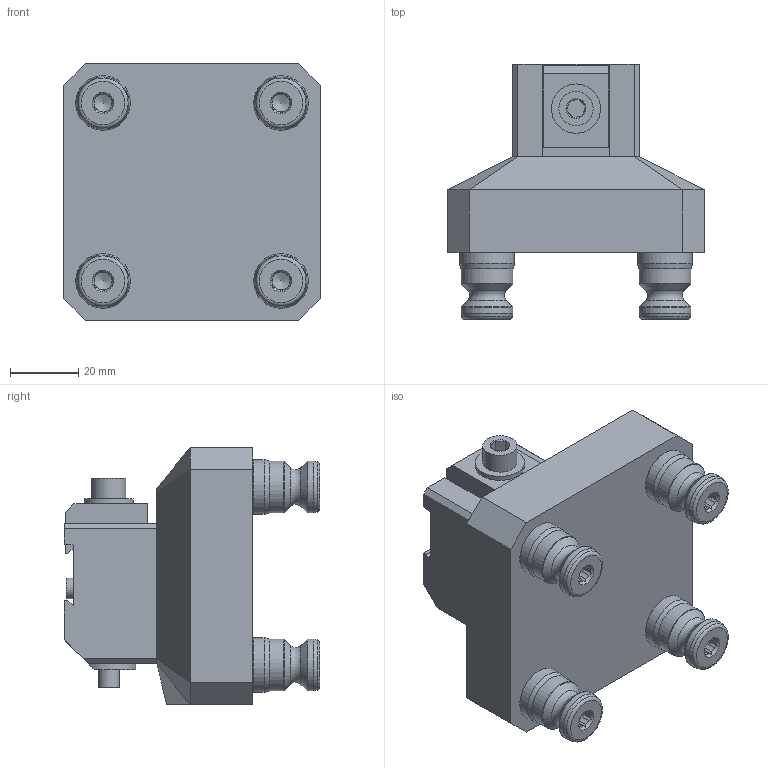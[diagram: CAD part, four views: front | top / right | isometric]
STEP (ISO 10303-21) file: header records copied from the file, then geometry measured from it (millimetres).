
FILE_DESCRIPTION (( 'STEP AP214' ), '1' );
FILE_NAME ('A52-DM25_WEBSITE.step', '2025-08-13T05:04:03', ( '' ), ( '' ), 'SwSTEP 2.0', 'SolidWorks 2025', '' );
FILE_SCHEMA (( 'AUTOMOTIVE_DESIGN' ));
Length unit declared in the file: millimetre
Products named in the file (13): D_LP6_WEBSITE_LP6; M8X20.FPSS_WEBSITE_93245A145; D_ M6-1.0MM X 55MM SHCS_WEBSITE; D_M6 Flat Washer_WEBSITE; D_DM25 Clamp-2_WEBSITE_SLD25; A52-DM25-1_WEBSITE; PS16F-1_WEBSITE_HARD TURN; D_DM25 Clamp-1_WEBSITE; A52-DM25_WEBSITE; D_M6-1.0MM X 20MM SHCS_WEBSITE; D_DM25 Body_WEBSITE_MILL OP2; PS16F_WEBSITE; D_DM25_WEBSITE
Assembly tree (18 placements, depth 3):
  A52-DM25_WEBSITE
    A52-DM25-1_WEBSITE
    D_DM25_WEBSITE
      D_DM25 Body_WEBSITE_MILL OP2
      D_ M6-1.0MM X 55MM SHCS_WEBSITE
      D_DM25 Clamp-1_WEBSITE
      D_DM25 Clamp-2_WEBSITE_SLD25
      D_M6 Flat Washer_WEBSITE
      D_M6-1.0MM X 20MM SHCS_WEBSITE  x2
      D_LP6_WEBSITE_LP6  x3
    PS16F_WEBSITE  x4
      PS16F-1_WEBSITE_HARD TURN
      M8X20.FPSS_WEBSITE_93245A145
Bounding box: 75 x 74.56 x 75 mm (x, y, z)
Volume: 187060 mm3; surface area: 49417.1 mm2
Topology: 19 solids, 19 shells, 421 faces, 935 edges, 588 vertices
Faces by surface type: plane 234, cylinder 82, cone 77, torus 28
Full cylindrical faces by diameter (mm): 3.023 x2, 3.3 x2, 4 x2, 4.2 x2, 5 x6, 5.25 x4, 6 x6, 6.025 x2, 6.365 x3, 6.4 x1, 6.477 x2, 6.604 x1, 6.756 x1, 6.8 x8, 8 x8, 9.525 x1, 10 x3, 10.795 x2, 11.991 x4, 12.017 x4, 12.69 x1, 12.738 x2, 12.802 x1, 14.4 x1, 15.202 x8, 15.997 x4
Entity records: 6255 total; most frequent: CARTESIAN_POINT 1109, DIRECTION 1008, ORIENTED_EDGE 774, AXIS2_PLACEMENT_3D 397, EDGE_CURVE 387, EDGE_LOOP 351, FACE_OUTER_BOUND 287, VERTEX_POINT 286
